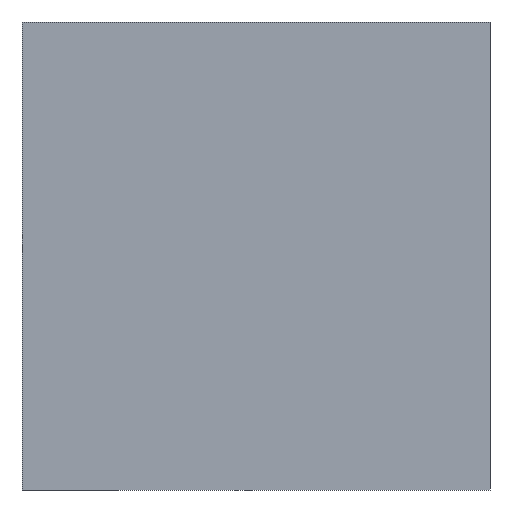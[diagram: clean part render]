
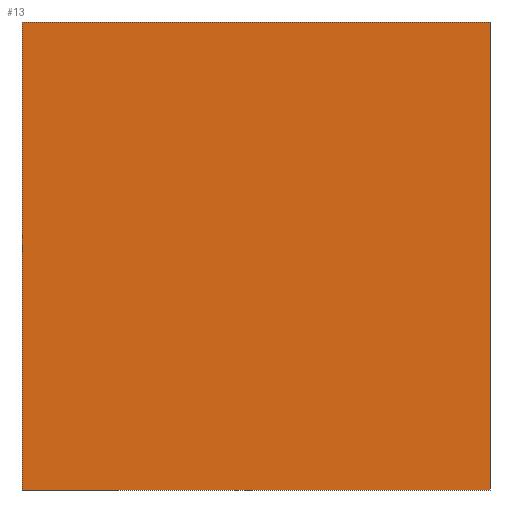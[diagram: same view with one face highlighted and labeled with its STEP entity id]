
A CAD part, front view. The second image highlights one B-rep face of the part: STEP entity #13.
In plain terms, the highlighted planar face has unit normal (0, -1, 0).
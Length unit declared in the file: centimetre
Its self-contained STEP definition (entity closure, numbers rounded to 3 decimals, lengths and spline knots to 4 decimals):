
#13 = ADVANCED_FACE ( 'NONE', ( #207 ), #170, .F. ) ;
#19 = CARTESIAN_POINT ( 'NONE',  ( 1000., 0., 0. ) ) ;
#32 = CARTESIAN_POINT ( 'NONE',  ( 0., 0., 1000. ) ) ;
#76 = CARTESIAN_POINT ( 'NONE',  ( 0., 0., 1000. ) ) ;
#80 = DIRECTION ( 'NONE',  ( 0., 0., 1. ) ) ;
#85 = VECTOR ( 'NONE', #152, 100. ) ;
#92 = EDGE_CURVE ( 'NONE', #121, #258, #181, .T. ) ;
#109 = CARTESIAN_POINT ( 'NONE',  ( 0., 0., 1000. ) ) ;
#115 = DIRECTION ( 'NONE',  ( 0., 1., 0. ) ) ;
#117 = VERTEX_POINT ( 'NONE', #366 ) ;
#121 = VERTEX_POINT ( 'NONE', #178 ) ;
#124 = ORIENTED_EDGE ( 'NONE', *, *, #321, .F. ) ;
#134 = VECTOR ( 'NONE', #202, 100. ) ;
#140 = LINE ( 'NONE', #303, #226 ) ;
#141 = LINE ( 'NONE', #76, #85 ) ;
#152 = DIRECTION ( 'NONE',  ( 0., 0., -1. ) ) ;
#170 = PLANE ( 'NONE',  #261 ) ;
#178 = CARTESIAN_POINT ( 'NONE',  ( 0., 0., 1000. ) ) ;
#180 = ORIENTED_EDGE ( 'NONE', *, *, #92, .F. ) ;
#181 = LINE ( 'NONE', #32, #194 ) ;
#194 = VECTOR ( 'NONE', #305, 100. ) ;
#196 = EDGE_CURVE ( 'NONE', #121, #117, #141, .T. ) ;
#202 = DIRECTION ( 'NONE',  ( 1., 0., 0. ) ) ;
#207 = FACE_OUTER_BOUND ( 'NONE', #228, .T. ) ;
#214 = ORIENTED_EDGE ( 'NONE', *, *, #196, .T. ) ;
#226 = VECTOR ( 'NONE', #390, 100. ) ;
#228 = EDGE_LOOP ( 'NONE', ( #269, #124, #180, #214 ) ) ;
#229 = LINE ( 'NONE', #354, #134 ) ;
#258 = VERTEX_POINT ( 'NONE', #262 ) ;
#261 = AXIS2_PLACEMENT_3D ( 'NONE', #109, #115, #80 ) ;
#262 = CARTESIAN_POINT ( 'NONE',  ( 1000., 0., 1000. ) ) ;
#269 = ORIENTED_EDGE ( 'NONE', *, *, #352, .T. ) ;
#271 = VERTEX_POINT ( 'NONE', #19 ) ;
#303 = CARTESIAN_POINT ( 'NONE',  ( 1000., 0., 1000. ) ) ;
#305 = DIRECTION ( 'NONE',  ( 1., 0., 0. ) ) ;
#321 = EDGE_CURVE ( 'NONE', #258, #271, #140, .T. ) ;
#352 = EDGE_CURVE ( 'NONE', #117, #271, #229, .T. ) ;
#354 = CARTESIAN_POINT ( 'NONE',  ( 0., 0., 0. ) ) ;
#366 = CARTESIAN_POINT ( 'NONE',  ( 0., 0., 0. ) ) ;
#390 = DIRECTION ( 'NONE',  ( 0., 0., -1. ) ) ;
